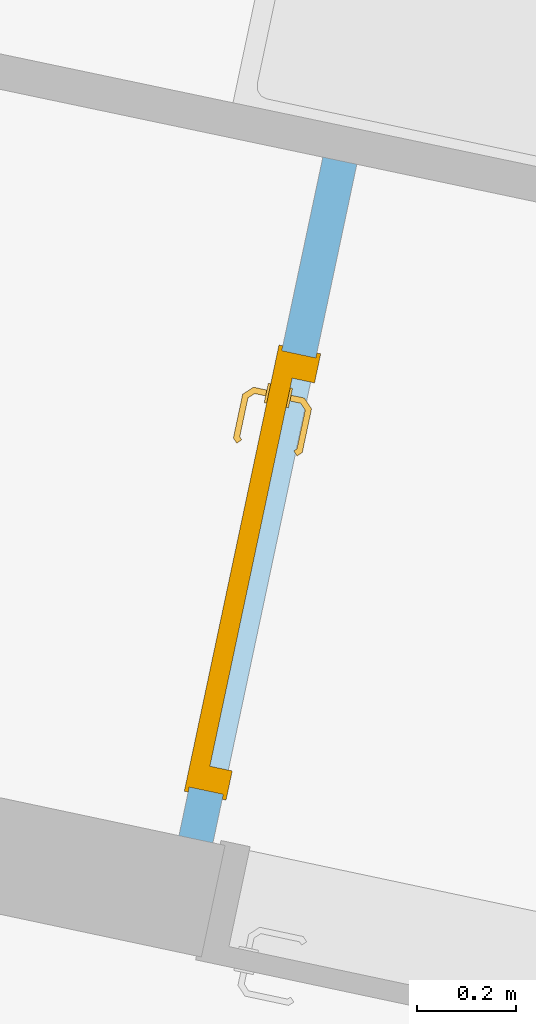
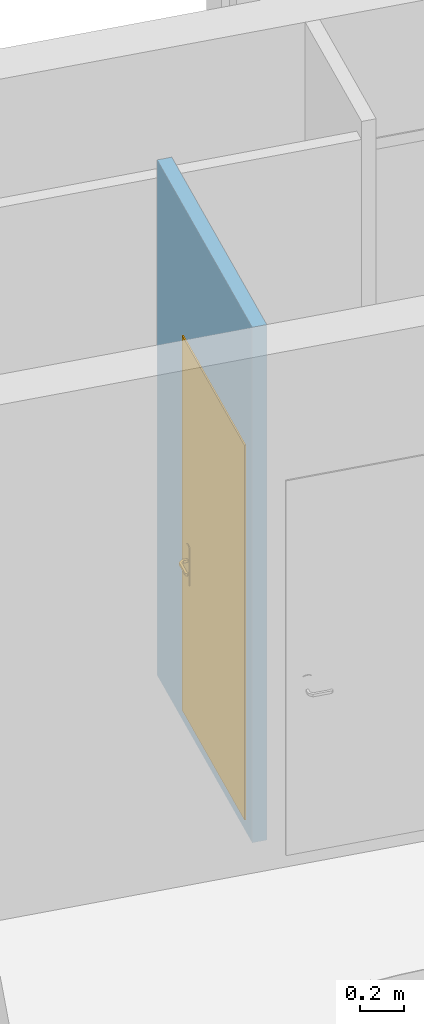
"""IFC2X3 building model written with IfcOpenShell, lengths in metres."""

from ifc_helpers import new_model, entity, si_unit, converted_unit, derived_unit, direction, frame, frame_2d, origin, place, context, subcontext, project, spatial, polyline, rectangle, outline, extrude, faceted_brep, source, transform, mapped, material, material_list, layer, layer_set, layer_usage, type_object, type_shapes, element, fill, save


model = new_model("IFC2X3")

# Units and contexts
model_context = context("Model", 3, precision=1e-05, world=origin(), true_north=direction((6.12303176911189e-17, 1.0)))
body_context = subcontext(model_context, "Body", "Model", "MODEL_VIEW")
ifc_project = project(units=[si_unit("LENGTHUNIT", "METRE"), si_unit("AREAUNIT", "SQUARE_METRE"), si_unit("VOLUMEUNIT", "CUBIC_METRE"), converted_unit("PLANEANGLEUNIT", "DEGREE", entity("IfcRatioMeasure", 0.0174532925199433), si_unit("PLANEANGLEUNIT", "RADIAN"), dimensions=[0, 0, 0, 0, 0, 0, 0]), si_unit("MASSUNIT", "GRAM", prefix="KILO"), derived_unit("MASSDENSITYUNIT", [(si_unit("MASSUNIT", "GRAM", prefix="KILO"), 1), (si_unit("LENGTHUNIT", "METRE"), -3)]), si_unit("TIMEUNIT", "SECOND"), si_unit("FREQUENCYUNIT", "HERTZ"), si_unit("THERMODYNAMICTEMPERATUREUNIT", "DEGREE_CELSIUS"), derived_unit("THERMALTRANSMITTANCEUNIT", [(si_unit("MASSUNIT", "GRAM", prefix="KILO"), 1), (si_unit("THERMODYNAMICTEMPERATUREUNIT", "KELVIN"), -1), (si_unit("TIMEUNIT", "SECOND"), -3)]), derived_unit("VOLUMETRICFLOWRATEUNIT", [(si_unit("LENGTHUNIT", "METRE"), 3), (si_unit("TIMEUNIT", "SECOND"), -1)]), si_unit("ELECTRICCURRENTUNIT", "AMPERE"), si_unit("ELECTRICVOLTAGEUNIT", "VOLT"), si_unit("POWERUNIT", "WATT"), si_unit("FORCEUNIT", "NEWTON", prefix="KILO"), si_unit("ILLUMINANCEUNIT", "LUX"), si_unit("LUMINOUSFLUXUNIT", "LUMEN"), si_unit("LUMINOUSINTENSITYUNIT", "CANDELA"), derived_unit("USERDEFINED", [(si_unit("MASSUNIT", "GRAM", prefix="KILO"), -1), (si_unit("LENGTHUNIT", "METRE"), -2), (si_unit("TIMEUNIT", "SECOND"), 3), (si_unit("LUMINOUSFLUXUNIT", "LUMEN"), 1)]), derived_unit("LINEARVELOCITYUNIT", [(si_unit("LENGTHUNIT", "METRE"), 1), (si_unit("TIMEUNIT", "SECOND"), -1)]), si_unit("PRESSUREUNIT", "PASCAL"), derived_unit("USERDEFINED", [(si_unit("LENGTHUNIT", "METRE"), -2), (si_unit("MASSUNIT", "GRAM", prefix="KILO"), 1), (si_unit("TIMEUNIT", "SECOND"), -2)])], contexts=[model_context])

# Site, building, storey
site_placement = place(None, origin())
site = spatial("IfcSite", under=ifc_project, at=site_placement, Name="Default", CompositionType="ELEMENT")
building_placement = place(site_placement, origin())
building = spatial("IfcBuilding", under=site, at=building_placement, CompositionType="ELEMENT")
storey_1_placement = place(building_placement, frame((0.0, 0.0, -0.0686871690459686)))
storey_1 = spatial("IfcBuildingStorey", under=building, at=storey_1_placement, Name="RDC", CompositionType="ELEMENT", Elevation=-0.0686871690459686)

# Wall, opening
ifc_material_1 = material(Name="Blanc - Element de salle de bains")
ifc_layer = layer(ifc_material_1, 0.07)
ifc_layer_set = layer_set([ifc_layer], Name="Mur de base:Int.  Platre 70 mm en blanc")
ifc_layer_usage = layer_usage(ifc_layer_set, "AXIS2", "POSITIVE", -0.035)
wall_type = type_object("IfcWallType", Name="Mur de base:Int.  Platre 70 mm en blanc", PredefinedType="STANDARD", material=ifc_layer_set)
wall_placement = place(storey_1_placement, frame((-18.607890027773, 82.1591692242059, 0.0), z_axis=(0.0, 0.0, 1.0), x_axis=(-0.207484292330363, -0.978238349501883, 0.0)))
wall = element("IfcWallStandardCase", 1, at=wall_placement, inside=storey_1, type_object=wall_type, material=ifc_layer_usage, Name="Mur de base:Int.  Platre 70 mm en blanc", ObjectType="Mur de base:Int.  Platre 70 mm en blanc", context=body_context, shape_type="SweptSolid", body=[
    extrude(outline(polyline([(1.39912705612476, -0.0350000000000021), (1.39912705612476, 0.0349999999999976), (0.0, 0.034999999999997), (0.00013794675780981, -0.0350000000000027), (1.39912705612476, -0.0350000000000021)])), origin(), (0.0, 0.0, 1.0), 2.86868716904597),
])
opening_placement = place(wall_placement, frame((1.29912721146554, 0.0350000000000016, 0.0686871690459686)))
opening = element("IfcOpeningElement", 2, at=opening_placement, cuts=wall, Name="FR_Simple (R):83 x 204 - (80):1", ObjectType="Opening", context=body_context, shape_type="SweptSolid", body=[
    extrude(rectangle(XDim=2.075, YDim=0.9, at=frame_2d((1.0375, 0.450000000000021), x_axis=(1.0, 0.0))), frame((0.0, 0.0, 0.0), z_axis=(0.0, -1.0, 0.0), x_axis=(0.0, 0.0, 1.0)), (0.0, 0.0, 1.0), 0.07),
])

# Storey
storey_2_placement = place(building_placement, origin())
storey_2 = spatial("IfcBuildingStorey", under=building, at=storey_2_placement, Name="Plan des fondations  Maisons 1 et 2", CompositionType="ELEMENT", Elevation=0.0)

# Door
ifc_material_2 = material(Name="Poignée Porte")
ifc_material_3 = material(Name="Dormants Portes")
ifc_material_4 = material(Name="Panneaux Portes")
ifc_material_list_1 = material_list([ifc_material_2, ifc_material_3, ifc_material_4])
ifc_material_list_2 = material_list([ifc_material_2, ifc_material_3, ifc_material_4])
door_style = type_object("IfcDoorStyle", Name="83 x 204 - (80)", ConstructionType="NOTDEFINED", OperationType="SINGLE_SWING_LEFT", ParameterTakesPrecedence=False, Sizeable=False, material=ifc_material_list_2)
shared_shape = source(origin(), body_context, "Body", "Brep", [
    faceted_brep([(0.1003527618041, -0.0130000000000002, 0.766003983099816), (0.109999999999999, -0.0130000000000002, 0.770000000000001), (0.109999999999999, -0.0130000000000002, 0.980000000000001), (0.1003527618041, -0.0130000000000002, 0.983996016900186), (0.0899999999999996, -0.0130000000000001, 0.985358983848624), (0.0796472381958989, -0.0130000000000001, 0.983996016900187), (0.0699999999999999, -0.0130000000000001, 0.980000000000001), (0.0699999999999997, -0.0130000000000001, 0.770000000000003), (0.0796472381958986, -0.0130000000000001, 0.766003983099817), (0.0899999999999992, -0.0130000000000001, 0.764641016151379), (0.1003527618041, -0.00800000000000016, 0.983996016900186), (0.109999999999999, -0.00800000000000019, 0.980000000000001), (0.109999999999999, -0.00800000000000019, 0.770000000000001), (0.1003527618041, -0.00800000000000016, 0.766003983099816), (0.0899999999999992, -0.00800000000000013, 0.764641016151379), (0.0796472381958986, -0.00800000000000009, 0.766003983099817), (0.0699999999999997, -0.00800000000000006, 0.770000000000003), (0.0699999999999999, -0.00800000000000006, 0.980000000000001), (0.0796472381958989, -0.00800000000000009, 0.983996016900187), (0.0899999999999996, -0.00800000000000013, 0.985358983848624)], [[[0, 1, 2, 3, 4, 5, 6, 7, 8, 9]], [[10, 11, 12, 13, 14, 15, 16, 17, 18, 19]], [[16, 15, 8, 7]], [[8, 15, 14, 9]], [[14, 13, 0, 9]], [[13, 12, 1, 0]], [[2, 1, 12, 11]], [[11, 10, 3, 2]], [[3, 10, 19, 4]], [[19, 18, 5, 4]], [[18, 17, 6, 5]], [[7, 6, 17, 16]]]),
    faceted_brep([(0.1003527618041, 0.0319999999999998, 0.766003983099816), (0.109999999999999, 0.0319999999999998, 0.770000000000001), (0.109999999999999, 0.0319999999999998, 0.980000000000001), (0.1003527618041, 0.0319999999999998, 0.983996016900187), (0.0899999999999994, 0.0319999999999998, 0.985358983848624), (0.0796472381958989, 0.0319999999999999, 0.983996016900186), (0.0699999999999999, 0.0319999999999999, 0.980000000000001), (0.0700000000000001, 0.0319999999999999, 0.770000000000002), (0.0796472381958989, 0.0319999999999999, 0.766003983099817), (0.0899999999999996, 0.0319999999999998, 0.764641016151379), (0.1003527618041, 0.0369999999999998, 0.983996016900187), (0.109999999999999, 0.0369999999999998, 0.980000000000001), (0.11, 0.0369999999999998, 0.770000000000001), (0.1003527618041, 0.0369999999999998, 0.766003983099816), (0.0899999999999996, 0.0369999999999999, 0.764641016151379), (0.079647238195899, 0.0369999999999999, 0.766003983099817), (0.0699999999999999, 0.0369999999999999, 0.770000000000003), (0.0699999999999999, 0.0369999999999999, 0.980000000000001), (0.0796472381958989, 0.0369999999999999, 0.983996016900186), (0.0899999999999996, 0.0369999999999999, 0.985358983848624)], [[[0, 1, 2, 3, 4, 5, 6, 7, 8, 9]], [[10, 11, 12, 13, 14, 15, 16, 17, 18, 19]], [[11, 10, 3, 2]], [[3, 10, 19, 4]], [[19, 18, 5, 4]], [[18, 17, 6, 5]], [[7, 6, 17, 16]], [[16, 15, 8, 7]], [[8, 15, 14, 9]], [[14, 13, 0, 9]], [[13, 12, 1, 0]], [[2, 1, 12, 11]]]),
    faceted_brep([(0.0879747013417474, -0.0130000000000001, 0.907780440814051), (0.092025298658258, -0.0130000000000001, 0.907780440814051), (0.0960000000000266, -0.0130000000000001, 0.906999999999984), (0.0960000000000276, -0.0130000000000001, 0.893000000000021), (0.0920252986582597, -0.0130000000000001, 0.89221955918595), (0.0879747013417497, -0.0130000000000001, 0.892219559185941), (0.0839999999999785, -0.0130000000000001, 0.892999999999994), (0.0839999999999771, -0.0130000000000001, 0.90699999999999), (0.0839999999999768, -0.0406509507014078, 0.906999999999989), (0.0879747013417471, -0.0390045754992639, 0.907780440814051), (0.10402358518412, -0.0550534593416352, 0.907780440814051), (0.10570139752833, -0.0510028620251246, 0.907780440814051), (0.0920252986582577, -0.0373267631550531, 0.907780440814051), (0.19852181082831, -0.0473891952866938, 0.90778044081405), (0.195657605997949, -0.0445249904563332, 0.90778044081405), (0.189179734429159, -0.0510028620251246, 0.90778044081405), (0.19085754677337, -0.0550534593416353, 0.90778044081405), (0.096000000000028, -0.0356803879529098, 0.90699999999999), (0.0960000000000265, -0.0356803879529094, 0.893000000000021), (0.0920252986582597, -0.0373267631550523, 0.89221955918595), (0.105701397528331, -0.0510028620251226, 0.89221955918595), (0.104023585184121, -0.0550534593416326, 0.89221955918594), (0.0879747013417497, -0.0390045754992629, 0.89221955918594), (0.195657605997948, -0.044524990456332, 0.89221955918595), (0.198521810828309, -0.0473891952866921, 0.89221955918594), (0.190857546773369, -0.0550534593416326, 0.89221955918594), (0.189179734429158, -0.0510028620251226, 0.89221955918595), (0.0839999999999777, -0.0406509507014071, 0.892999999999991), (0.102377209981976, -0.0590281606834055, 0.906999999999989), (0.107347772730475, -0.0470281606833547, 0.90699999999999), (0.107347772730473, -0.0470281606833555, 0.893000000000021), (0.102377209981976, -0.0590281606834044, 0.892999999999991), (0.142307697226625, -0.0590281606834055, 0.906999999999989), (0.147440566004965, -0.053182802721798, 0.907878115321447), (0.192503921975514, -0.0590281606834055, 0.906999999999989), (0.147440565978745, -0.0470281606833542, 0.90699999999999), (0.187533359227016, -0.0470281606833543, 0.906999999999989), (0.187533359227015, -0.0470281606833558, 0.89300000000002), (0.147440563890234, -0.0470281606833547, 0.893000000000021), (0.14744056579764, -0.0531828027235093, 0.892121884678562), (0.192503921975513, -0.0590281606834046, 0.892999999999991), (0.152573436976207, -0.0590281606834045, 0.892999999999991), (0.192847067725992, -0.0417144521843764, 0.906999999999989), (0.201332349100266, -0.0501997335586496, 0.906999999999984), (0.201332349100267, -0.0501997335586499, 0.892999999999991), (0.192847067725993, -0.0417144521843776, 0.893000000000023)], [[[0, 1, 2, 3, 4, 5, 6, 7]], [[8, 9, 0, 7]], [[9, 10, 11, 12, 1, 0]], [[13, 14, 15, 16]], [[12, 17, 2, 1]], [[3, 2, 17, 18]], [[18, 19, 4, 3]], [[19, 20, 21, 22, 5, 4]], [[23, 24, 25, 26]], [[22, 27, 6, 5]], [[7, 6, 27, 8]], [[28, 10, 9, 8]], [[11, 29, 17, 12]], [[18, 17, 29, 30]], [[30, 20, 19, 18]], [[21, 31, 27, 22]], [[8, 27, 31, 28]], [[32, 33, 10]], [[33, 32, 16]], [[10, 28, 32]], [[34, 16, 32]], [[33, 35, 11]], [[11, 10, 33]], [[15, 35, 33]], [[29, 11, 35]], [[35, 15, 36]], [[15, 33, 16]], [[30, 29, 35, 36, 37, 38]], [[20, 38, 39]], [[25, 40, 41]], [[31, 21, 41]], [[41, 21, 39]], [[39, 38, 26]], [[26, 25, 39]], [[38, 20, 30]], [[37, 26, 38]], [[20, 39, 21]], [[41, 39, 25]], [[28, 31, 41, 40, 34, 32]], [[42, 14, 13, 43, 44, 24, 23, 45]], [[43, 13, 16, 34]], [[14, 42, 36, 15]], [[37, 36, 42, 45]], [[45, 23, 26, 37]], [[24, 44, 40, 25]], [[34, 40, 44, 43]]]),
    faceted_brep([(0.0879747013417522, 0.0369999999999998, 0.892219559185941), (0.0920252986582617, 0.0369999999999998, 0.892219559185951), (0.0960000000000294, 0.0369999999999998, 0.893000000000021), (0.0960000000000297, 0.0369999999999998, 0.90699999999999), (0.0920252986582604, 0.0369999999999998, 0.907780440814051), (0.0879747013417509, 0.0369999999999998, 0.907780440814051), (0.0839999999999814, 0.0369999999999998, 0.90699999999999), (0.083999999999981, 0.0369999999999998, 0.892999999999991), (0.0960000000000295, 0.0594852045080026, 0.893000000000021), (0.0960000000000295, 0.0594852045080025, 0.90699999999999), (0.0920252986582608, 0.0611315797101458, 0.907780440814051), (0.105838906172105, 0.0749451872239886, 0.907780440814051), (0.104161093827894, 0.0789957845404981, 0.907780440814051), (0.0879747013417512, 0.0628093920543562, 0.907780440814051), (0.195684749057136, 0.0684673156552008, 0.907780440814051), (0.198548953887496, 0.071331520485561, 0.907780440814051), (0.190884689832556, 0.0789957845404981, 0.907780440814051), (0.189206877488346, 0.0749451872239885, 0.907780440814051), (0.0839999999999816, 0.0644557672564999, 0.90699999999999), (0.0839999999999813, 0.0644557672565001, 0.892999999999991), (0.0879747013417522, 0.0628093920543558, 0.892219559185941), (0.104161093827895, 0.0789957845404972, 0.892219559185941), (0.105838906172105, 0.0749451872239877, 0.892219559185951), (0.0920252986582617, 0.0611315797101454, 0.892219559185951), (0.198548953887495, 0.07133152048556, 0.89221955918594), (0.195684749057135, 0.0684673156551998, 0.89221955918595), (0.189206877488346, 0.0749451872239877, 0.89221955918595), (0.190884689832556, 0.0789957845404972, 0.89221955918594), (0.107485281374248, 0.0709704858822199, 0.893000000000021), (0.107485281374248, 0.0709704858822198, 0.90699999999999), (0.102514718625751, 0.0829704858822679, 0.90699999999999), (0.102514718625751, 0.0829704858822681, 0.892999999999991), (0.147522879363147, 0.0709704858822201, 0.89300000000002), (0.187560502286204, 0.0709704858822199, 0.89300000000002), (0.187560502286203, 0.0709704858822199, 0.90699999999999), (0.147522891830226, 0.0709704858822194, 0.90699999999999), (0.147522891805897, 0.0771249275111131, 0.907878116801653), (0.1925310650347, 0.0829704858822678, 0.90699999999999), (0.152600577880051, 0.0829704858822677, 0.90699999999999), (0.1925310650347, 0.082970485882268, 0.892999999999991), (0.142445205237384, 0.0829704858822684, 0.892999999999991), (0.147522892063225, 0.0771249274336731, 0.892121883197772), (0.19287421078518, 0.0656567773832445, 0.89300000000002), (0.201359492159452, 0.0741420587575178, 0.892999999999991), (0.201359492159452, 0.0741420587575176, 0.90699999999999), (0.19287421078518, 0.0656567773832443, 0.90699999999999)], [[[0, 1, 2, 3, 4, 5, 6, 7]], [[3, 2, 8, 9]], [[9, 10, 4, 3]], [[10, 11, 12, 13, 5, 4]], [[14, 15, 16, 17]], [[13, 18, 6, 5]], [[7, 6, 18, 19]], [[19, 20, 0, 7]], [[20, 21, 22, 23, 1, 0]], [[24, 25, 26, 27]], [[23, 8, 2, 1]], [[9, 8, 28, 29]], [[29, 11, 10, 9]], [[12, 30, 18, 13]], [[19, 18, 30, 31]], [[31, 21, 20, 19]], [[22, 28, 8, 23]], [[28, 32, 33, 34, 35, 29]], [[11, 35, 36]], [[16, 37, 38]], [[30, 12, 38]], [[38, 12, 36]], [[36, 35, 17]], [[17, 16, 36]], [[35, 11, 29]], [[34, 17, 35]], [[11, 36, 12]], [[38, 36, 16]], [[31, 30, 38, 37, 39, 40]], [[40, 41, 21]], [[41, 40, 27]], [[21, 31, 40]], [[39, 27, 40]], [[41, 32, 22]], [[22, 21, 41]], [[26, 32, 41]], [[28, 22, 32]], [[32, 26, 33]], [[26, 41, 27]], [[42, 25, 24, 43, 44, 15, 14, 45]], [[34, 33, 42, 45]], [[45, 14, 17, 34]], [[15, 44, 37, 16]], [[39, 37, 44, 43]], [[43, 24, 27, 39]], [[25, 42, 33, 26]]]),
    faceted_brep([(0.0, 0.0, 0.0), (0.0, 0.0700000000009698, 0.0), (-0.00999999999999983, 0.0700000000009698, 0.0), (-0.00999999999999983, 0.0780000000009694, 0.0), (0.0499999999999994, 0.0780000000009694, 0.0), (0.0499999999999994, 0.032, 0.0), (0.0349999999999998, 0.032, 0.0), (0.0349999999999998, -0.00799999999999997, 0.0), (-0.00999999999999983, -0.00799999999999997, 0.0), (-0.00999999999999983, 0.0, 0.0), (0.0, 0.0, 2.075), (0.0, 0.0700000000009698, 2.075), (0.9, 0.0700000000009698, 2.075), (0.9, 0.0700000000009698, 0.0), (0.91, 0.0700000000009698, 0.0), (0.91, 0.0700000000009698, 2.085), (-0.00999999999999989, 0.0700000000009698, 2.085), (-0.00999999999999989, 0.0780000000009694, 2.085), (0.91, 0.0780000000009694, 2.085), (0.91, 0.0780000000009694, 0.0), (0.850000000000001, 0.0780000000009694, 0.0), (0.850000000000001, 0.0780000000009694, 2.025), (0.0499999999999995, 0.0780000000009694, 2.025), (0.0499999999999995, 0.032, 2.025), (0.850000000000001, 0.032, 2.025), (0.850000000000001, 0.032, 0.0), (0.865, 0.032, 0.0), (0.865, 0.032, 2.04), (0.0349999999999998, 0.032, 2.04), (0.0349999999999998, -0.00799999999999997, 2.04), (0.865, -0.00799999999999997, 2.04), (0.865, -0.00799999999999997, 0.0), (0.91, -0.00799999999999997, 0.0), (0.91, -0.00799999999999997, 2.085), (-0.00999999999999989, -0.00799999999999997, 2.085), (-0.00999999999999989, 0.0, 2.085), (0.91, 0.0, 2.085), (0.91, 0.0, 0.0), (0.9, 0.0, 0.0), (0.9, 0.0, 2.075)], [[[0, 1, 2, 3, 4, 5, 6, 7, 8, 9]], [[1, 0, 10, 11]], [[2, 1, 11, 12, 13, 14, 15, 16]], [[3, 2, 16, 17]], [[4, 3, 17, 18, 19, 20, 21, 22]], [[5, 4, 22, 23]], [[6, 5, 23, 24, 25, 26, 27, 28]], [[7, 6, 28, 29]], [[8, 7, 29, 30, 31, 32, 33, 34]], [[9, 8, 34, 35]], [[0, 9, 35, 36, 37, 38, 39, 10]], [[11, 10, 39, 12]], [[17, 16, 15, 18]], [[23, 22, 21, 24]], [[29, 28, 27, 30]], [[35, 34, 33, 36]], [[38, 37, 32, 31, 26, 25, 20, 19, 14, 13]], [[12, 39, 38, 13]], [[18, 15, 14, 19]], [[24, 21, 20, 25]], [[30, 27, 26, 31]], [[36, 33, 32, 37]]]),
    faceted_brep([(0.0349999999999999, -0.00799999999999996, 2.04), (0.0349999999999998, -0.00799999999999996, 0.0), (0.865, -0.00799999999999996, 0.0), (0.865, -0.00799999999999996, 2.04), (0.0349999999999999, 0.032, 2.04), (0.865, 0.032, 2.04), (0.865, 0.032, 0.0), (0.0349999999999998, 0.032, 0.0)], [[[0, 1, 2, 3]], [[4, 5, 6, 7]], [[1, 0, 4, 7]], [[2, 1, 7, 6]], [[3, 2, 6, 5]], [[0, 3, 5, 4]]]),
])
type_shapes(door_style, [shared_shape])
door_placement = place(opening_placement, frame((-0.900000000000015, -0.0700000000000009, 0.0)))
door = element("IfcDoor", 3, at=door_placement, inside=storey_2, type_object=door_style, material=ifc_material_list_1, Name="FR_Simple (R):83 x 204 - (80)", ObjectType="FR_Simple (R):83 x 204 - (80)", OverallHeight=2.075, OverallWidth=0.900000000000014, context=body_context, shape_type="MappedRepresentation", body=[
    mapped(shared_shape, transform((0.0, 0.0, 0.0), scale=1.0)),
])

fill(opening, door)

save(model, "model.ifc")
